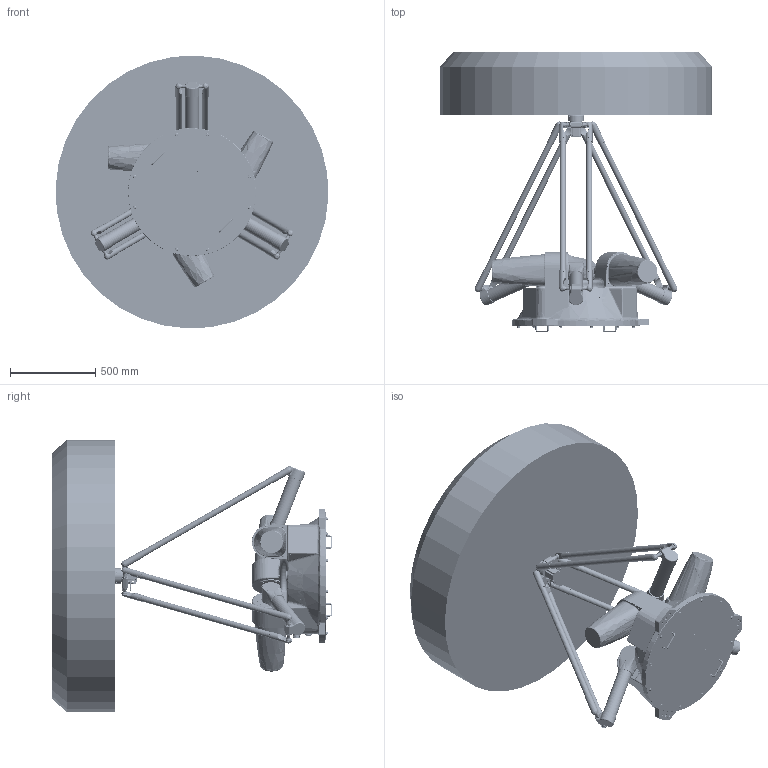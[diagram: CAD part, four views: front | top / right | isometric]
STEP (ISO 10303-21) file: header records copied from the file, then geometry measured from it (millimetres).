
FILE_DESCRIPTION (( 'STEP AP203' ), '1' );
FILE_NAME ('AP25X-1600-1544-T0-V2.0.0.STEP', '2024-10-10T08:23:18', ( '' ), ( '' ), 'SwSTEP 2.0', 'SolidWorks 2017', '' );
FILE_SCHEMA (( 'CONFIG_CONTROL_DESIGN' ));
Products named in the file (6): AP25X-1600-1544-T0-V2.0.0; AP15X-2200-1544-T1-V1.0.1; AP25X-1600-1544-T2-V1.0.0; AP25X-1600-1544-T3-V1.0.0; AP25X-1130-1544-T10-V1.0.0; AP25X-1600-1544-T10-V1.0.0
Assembly tree (12 placements, depth 2):
  AP25X-1600-1544-T0-V2.0.0
    AP15X-2200-1544-T1-V1.0.1
    AP25X-1600-1544-T2-V1.0.0  x3
    AP25X-1600-1544-T3-V1.0.0  x6
    AP25X-1130-1544-T10-V1.0.0
    AP25X-1600-1544-T10-V1.0.0
Bounding box: 1598.8 x 1644 x 1598.8 mm (x, y, z)
Volume: 743481944.5 mm3; surface area: 10642322.8 mm2
Topology: 58 solids, 236 shells, 8593 faces, 23196 edges, 14571 vertices
Faces by surface type: cylinder 2461, bspline 2452, plane 2162, cone 1164, torus 205, sphere 149
Entity records: 385563 total; most frequent: CARTESIAN_POINT 216070, ORIENTED_EDGE 37864, DIRECTION 30189, EDGE_CURVE 19506, VERTEX_POINT 12695, AXIS2_PLACEMENT_3D 11365, EDGE_LOOP 8196, VECTOR 7459
